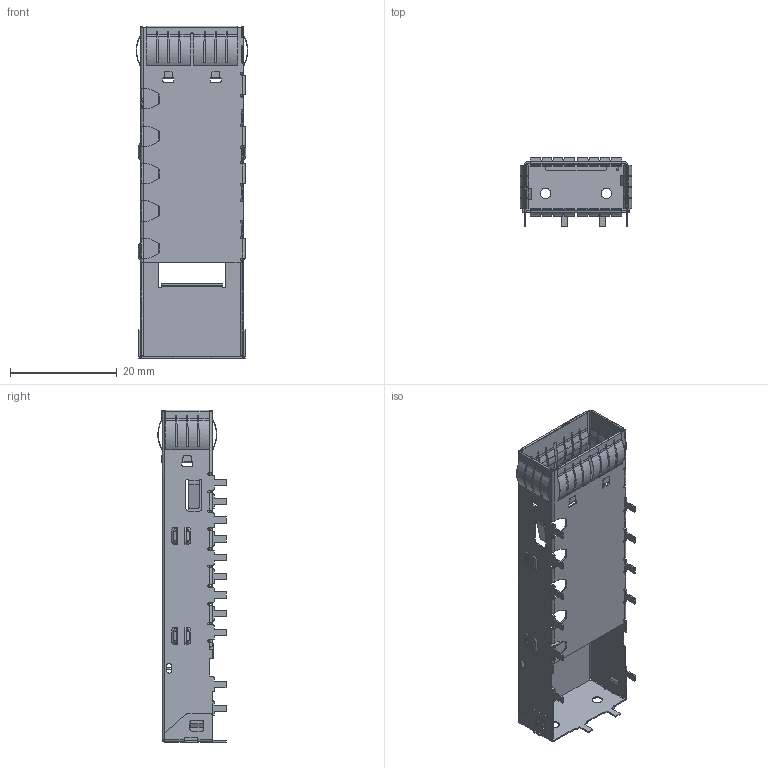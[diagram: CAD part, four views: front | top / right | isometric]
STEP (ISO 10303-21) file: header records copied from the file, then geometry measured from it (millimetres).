
FILE_DESCRIPTION((''),'2;1');
FILE_NAME('3D_Q224_CAGE_PQPC11-E000-F9S-0R','2026-06-22T17:26:09',('39002408'),(''),'CREO PARAMETRIC BY PTC INC, 2019471','CREO PARAMETRIC BY PTC INC, 2019471','');
FILE_SCHEMA(('CONFIG_CONTROL_DESIGN'));
Products named in the file (1): 3D_Q224_CAGE_PQPC11-E000-F9S-0R
Bounding box: 20.85 x 12.77 x 62.1 mm (x, y, z)
Volume: 773 mm3; surface area: 7514.2 mm2
Topology: 1 solids, 1 shells, 2096 faces, 5745 edges, 3495 vertices
Faces by surface type: plane 1109, cylinder 703, bspline 220, sphere 64
Entity records: 71896 total; most frequent: CARTESIAN_POINT 19804, ORIENTED_EDGE 11362, DIRECTION 10251, EDGE_CURVE 5681, VECTOR 3829, LINE 3829, VERTEX_POINT 3495, AXIS2_PLACEMENT_3D 3211
